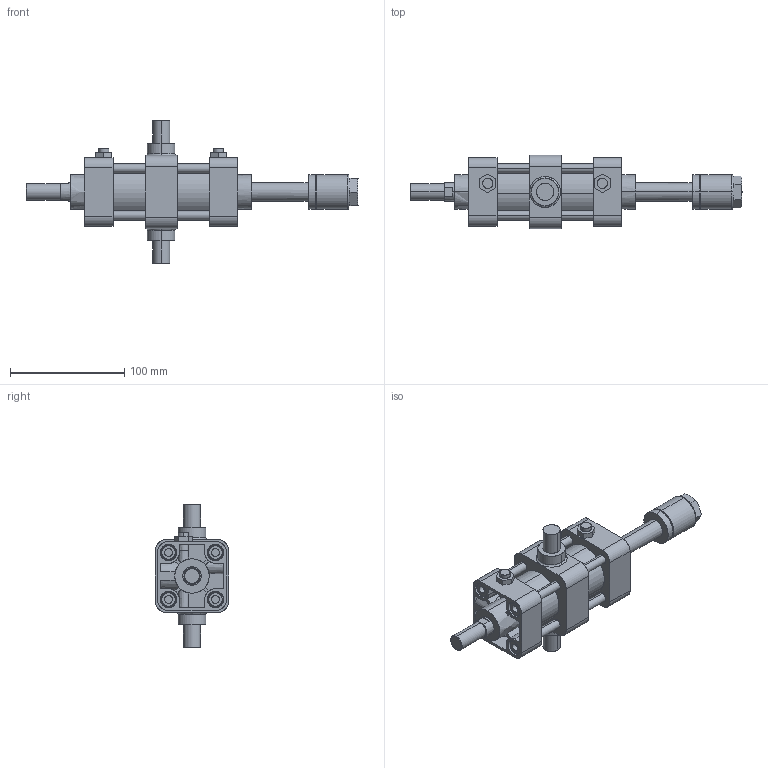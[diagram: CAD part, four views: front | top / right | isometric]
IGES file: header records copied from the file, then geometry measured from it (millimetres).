
Start section: SolidWorks IGES file using analytic representation for surfaces
Global section: file name: C:\Users\Toshiba\Desktop\KGA7-40#-50-T.IGS; native system: SolidWorks 2014; preprocessor: SolidWorks 2014; author: Toshiba; date: 160414.154843; units: millimetre
Bounding box: 290 x 64 x 125 mm (x, y, z)
Surface area: 118304.6 mm2 (no closed solid volume)
Topology: 0 solids, 0 shells, 447 faces, 7117 edges, 7083 vertices
Faces by surface type: revolution 226, bspline 221
